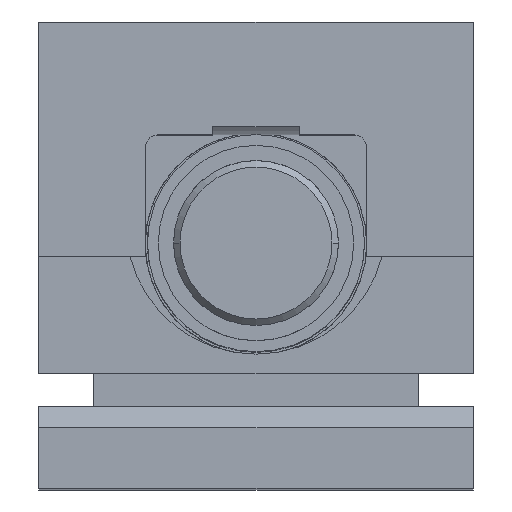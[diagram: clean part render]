
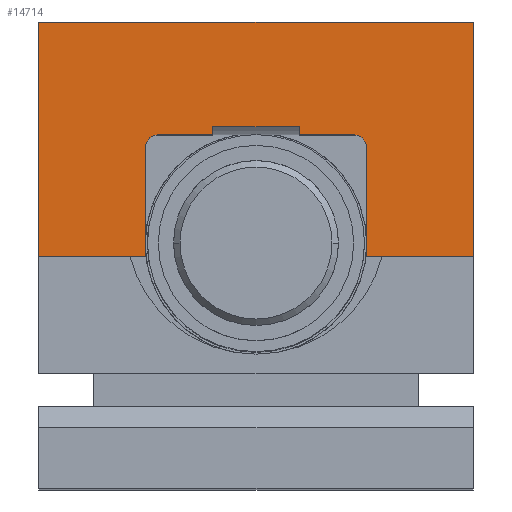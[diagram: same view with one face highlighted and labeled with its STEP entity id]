
A CAD part, top view. The second image highlights one B-rep face of the part: STEP entity #14714.
In plain terms, the highlighted planar face has unit normal (0, 0, 1) as drawn and (-1, 0, 0) by its records, which use the part's own axes.
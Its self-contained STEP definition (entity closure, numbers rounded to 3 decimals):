
#86 = LINE ( 'NONE', #3081, #17134 ) ;
#159 = AXIS2_PLACEMENT_3D ( 'NONE', #18048, #13694, #18154 ) ;
#348 = CARTESIAN_POINT ( 'NONE',  ( -9.5, -27., 50. ) ) ;
#783 = CARTESIAN_POINT ( 'NONE',  ( -9.5, 1., 10. ) ) ;
#1108 = LINE ( 'NONE', #1481, #16249 ) ;
#1116 = CARTESIAN_POINT ( 'NONE',  ( -9.5, -27., 50. ) ) ;
#1132 = LINE ( 'NONE', #7070, #3536 ) ;
#1192 = ORIENTED_EDGE ( 'NONE', *, *, #18640, .F. ) ;
#1304 = VECTOR ( 'NONE', #4253, 1000. ) ;
#1390 = CIRCLE ( 'NONE', #16568, 3. ) ;
#1472 = DIRECTION ( 'NONE',  ( 0., 0., 1. ) ) ;
#1481 = CARTESIAN_POINT ( 'NONE',  ( -9.5, 1., 25.5 ) ) ;
#1833 = LINE ( 'NONE', #15571, #4865 ) ;
#1949 = ORIENTED_EDGE ( 'NONE', *, *, #3009, .F. ) ;
#2283 = DIRECTION ( 'NONE',  ( 0., 1., 0. ) ) ;
#2347 = CARTESIAN_POINT ( 'NONE',  ( -9.5, 2.875, -10. ) ) ;
#2459 = VERTEX_POINT ( 'NONE', #12128 ) ;
#2494 = CARTESIAN_POINT ( 'NONE',  ( -9.5, -27., 50. ) ) ;
#2549 = DIRECTION ( 'NONE',  ( 0., 0., 1. ) ) ;
#2639 = CARTESIAN_POINT ( 'NONE',  ( -9.5, 2.875, -10. ) ) ;
#2850 = EDGE_CURVE ( 'NONE', #2459, #3539, #86, .T. ) ;
#3009 = EDGE_CURVE ( 'NONE', #12093, #3472, #1833, .T. ) ;
#3073 = CARTESIAN_POINT ( 'NONE',  ( -9.5, 1., 22.5 ) ) ;
#3081 = CARTESIAN_POINT ( 'NONE',  ( -9.5, 1., 25.5 ) ) ;
#3279 = VECTOR ( 'NONE', #7127, 1000. ) ;
#3405 = ORIENTED_EDGE ( 'NONE', *, *, #13236, .F. ) ;
#3472 = VERTEX_POINT ( 'NONE', #9696 ) ;
#3485 = DIRECTION ( 'NONE',  ( 0., 1., 0. ) ) ;
#3536 = VECTOR ( 'NONE', #18383, 1000. ) ;
#3539 = VERTEX_POINT ( 'NONE', #8356 ) ;
#3870 = ORIENTED_EDGE ( 'NONE', *, *, #12837, .T. ) ;
#3940 = EDGE_CURVE ( 'NONE', #13739, #2459, #1390, .T. ) ;
#4155 = EDGE_CURVE ( 'NONE', #3472, #7031, #14856, .T. ) ;
#4186 = CARTESIAN_POINT ( 'NONE',  ( -9.5, 1., -22.5 ) ) ;
#4253 = DIRECTION ( 'NONE',  ( 0., 0., 1. ) ) ;
#4391 = VECTOR ( 'NONE', #3485, 1000. ) ;
#4865 = VECTOR ( 'NONE', #2283, 1000. ) ;
#5002 = ORIENTED_EDGE ( 'NONE', *, *, #17897, .T. ) ;
#5155 = LINE ( 'NONE', #12810, #4391 ) ;
#5235 = EDGE_CURVE ( 'NONE', #11662, #17996, #5155, .T. ) ;
#5261 = EDGE_CURVE ( 'NONE', #12968, #5282, #17154, .T. ) ;
#5282 = VERTEX_POINT ( 'NONE', #11736 ) ;
#5701 = AXIS2_PLACEMENT_3D ( 'NONE', #18150, #14867, #8952 ) ;
#5734 = ORIENTED_EDGE ( 'NONE', *, *, #6958, .F. ) ;
#5900 = VERTEX_POINT ( 'NONE', #7739 ) ;
#6206 = DIRECTION ( 'NONE',  ( 0., -1., 0. ) ) ;
#6241 = FACE_OUTER_BOUND ( 'NONE', #10449, .T. ) ;
#6369 = LINE ( 'NONE', #348, #9251 ) ;
#6503 = ORIENTED_EDGE ( 'NONE', *, *, #13627, .T. ) ;
#6958 = EDGE_CURVE ( 'NONE', #5900, #12093, #9764, .T. ) ;
#7031 = VERTEX_POINT ( 'NONE', #12677 ) ;
#7070 = CARTESIAN_POINT ( 'NONE',  ( -9.5, 1., -25.5 ) ) ;
#7127 = DIRECTION ( 'NONE',  ( 0., 0., 1. ) ) ;
#7739 = CARTESIAN_POINT ( 'NONE',  ( -9.5, -27., -25.5 ) ) ;
#7991 = DIRECTION ( 'NONE',  ( 1., 0., 0. ) ) ;
#8041 = ORIENTED_EDGE ( 'NONE', *, *, #9600, .T. ) ;
#8356 = CARTESIAN_POINT ( 'NONE',  ( -9.5, -27., 25.5 ) ) ;
#8398 = VERTEX_POINT ( 'NONE', #1116 ) ;
#8695 = VERTEX_POINT ( 'NONE', #4186 ) ;
#8847 = LINE ( 'NONE', #2639, #3279 ) ;
#8908 = ORIENTED_EDGE ( 'NONE', *, *, #4155, .F. ) ;
#8952 = DIRECTION ( 'NONE',  ( 0., 0., 1. ) ) ;
#9251 = VECTOR ( 'NONE', #12365, 1000. ) ;
#9471 = CARTESIAN_POINT ( 'NONE',  ( -9.5, -27., -50. ) ) ;
#9600 = EDGE_CURVE ( 'NONE', #17996, #5282, #8847, .T. ) ;
#9696 = CARTESIAN_POINT ( 'NONE',  ( -9.5, 27., -50. ) ) ;
#9764 = LINE ( 'NONE', #10930, #15729 ) ;
#10179 = CARTESIAN_POINT ( 'NONE',  ( -9.5, 1., 25.5 ) ) ;
#10449 = EDGE_LOOP ( 'NONE', ( #12318, #8041, #17084, #6503, #13796, #16984, #3405, #1192, #8908, #1949, #5734, #18410, #5002, #3870 ) ) ;
#10888 = CARTESIAN_POINT ( 'NONE',  ( -9.5, -2., 22.5 ) ) ;
#10930 = CARTESIAN_POINT ( 'NONE',  ( -9.5, -27., 50. ) ) ;
#11266 = CARTESIAN_POINT ( 'NONE',  ( -9.5, 1., 10. ) ) ;
#11662 = VERTEX_POINT ( 'NONE', #15655 ) ;
#11736 = CARTESIAN_POINT ( 'NONE',  ( -9.5, 2.875, 10. ) ) ;
#12048 = CARTESIAN_POINT ( 'NONE',  ( -9.5, -2., -25.5 ) ) ;
#12093 = VERTEX_POINT ( 'NONE', #9471 ) ;
#12128 = CARTESIAN_POINT ( 'NONE',  ( -9.5, -2., 25.5 ) ) ;
#12229 = CARTESIAN_POINT ( 'NONE',  ( -9.5, 27., 50. ) ) ;
#12318 = ORIENTED_EDGE ( 'NONE', *, *, #5235, .T. ) ;
#12365 = DIRECTION ( 'NONE',  ( 0., -1., 0. ) ) ;
#12677 = CARTESIAN_POINT ( 'NONE',  ( -9.5, 27., 50. ) ) ;
#12787 = DIRECTION ( 'NONE',  ( 0., 0., -1. ) ) ;
#12810 = CARTESIAN_POINT ( 'NONE',  ( -9.5, 1., -10. ) ) ;
#12837 = EDGE_CURVE ( 'NONE', #8695, #11662, #1108, .T. ) ;
#12968 = VERTEX_POINT ( 'NONE', #11266 ) ;
#13236 = EDGE_CURVE ( 'NONE', #8398, #3539, #13940, .T. ) ;
#13455 = VECTOR ( 'NONE', #12787, 1000. ) ;
#13627 = EDGE_CURVE ( 'NONE', #12968, #13739, #14733, .T. ) ;
#13694 = DIRECTION ( 'NONE',  ( -1., 0., 0. ) ) ;
#13739 = VERTEX_POINT ( 'NONE', #3073 ) ;
#13796 = ORIENTED_EDGE ( 'NONE', *, *, #3940, .T. ) ;
#13940 = LINE ( 'NONE', #2494, #13455 ) ;
#14076 = VECTOR ( 'NONE', #1472, 1000. ) ;
#14714 = ADVANCED_FACE ( 'NONE', ( #6241 ), #16615, .T. ) ;
#14733 = LINE ( 'NONE', #10179, #1304 ) ;
#14856 = LINE ( 'NONE', #12229, #14076 ) ;
#14867 = DIRECTION ( 'NONE',  ( 1., 0., 0. ) ) ;
#15234 = VECTOR ( 'NONE', #15519, 1000. ) ;
#15519 = DIRECTION ( 'NONE',  ( 0., 1., 0. ) ) ;
#15571 = CARTESIAN_POINT ( 'NONE',  ( -9.5, -27., -50. ) ) ;
#15655 = CARTESIAN_POINT ( 'NONE',  ( -9.5, 1., -10. ) ) ;
#15729 = VECTOR ( 'NONE', #17024, 1000. ) ;
#16249 = VECTOR ( 'NONE', #2549, 1000. ) ;
#16568 = AXIS2_PLACEMENT_3D ( 'NONE', #10888, #7991, #16801 ) ;
#16615 = PLANE ( 'NONE',  #159 ) ;
#16801 = DIRECTION ( 'NONE',  ( 0., 0., 1. ) ) ;
#16976 = VERTEX_POINT ( 'NONE', #12048 ) ;
#16984 = ORIENTED_EDGE ( 'NONE', *, *, #2850, .T. ) ;
#17024 = DIRECTION ( 'NONE',  ( 0., 0., -1. ) ) ;
#17084 = ORIENTED_EDGE ( 'NONE', *, *, #5261, .F. ) ;
#17134 = VECTOR ( 'NONE', #6206, 1000. ) ;
#17154 = LINE ( 'NONE', #783, #15234 ) ;
#17409 = CIRCLE ( 'NONE', #5701, 3. ) ;
#17456 = EDGE_CURVE ( 'NONE', #5900, #16976, #1132, .T. ) ;
#17897 = EDGE_CURVE ( 'NONE', #16976, #8695, #17409, .T. ) ;
#17996 = VERTEX_POINT ( 'NONE', #2347 ) ;
#18048 = CARTESIAN_POINT ( 'NONE',  ( -9.5, 0., 0. ) ) ;
#18150 = CARTESIAN_POINT ( 'NONE',  ( -9.5, -2., -22.5 ) ) ;
#18154 = DIRECTION ( 'NONE',  ( 0., 0., 1. ) ) ;
#18383 = DIRECTION ( 'NONE',  ( 0., 1., 0. ) ) ;
#18410 = ORIENTED_EDGE ( 'NONE', *, *, #17456, .T. ) ;
#18640 = EDGE_CURVE ( 'NONE', #7031, #8398, #6369, .T. ) ;
